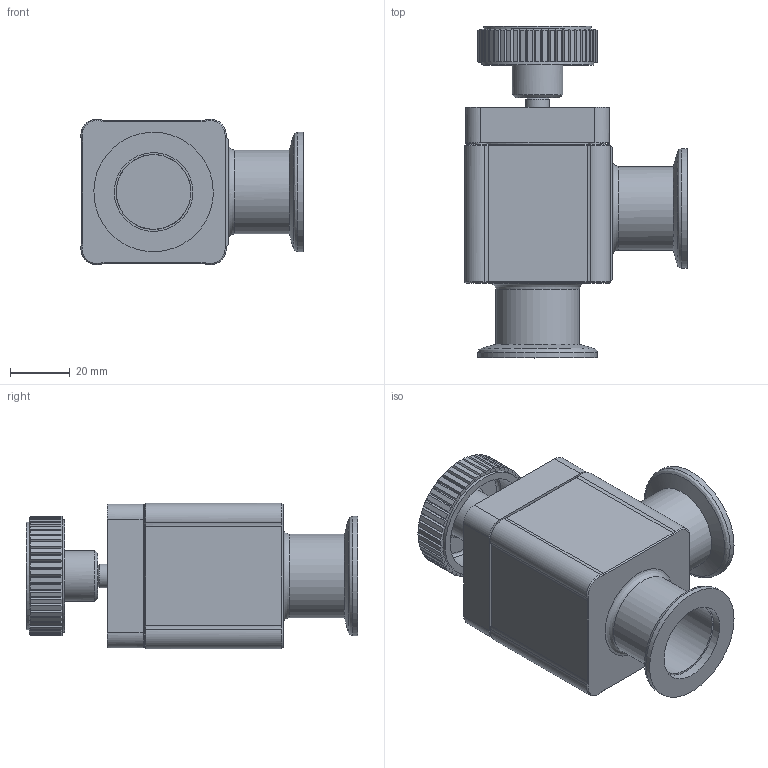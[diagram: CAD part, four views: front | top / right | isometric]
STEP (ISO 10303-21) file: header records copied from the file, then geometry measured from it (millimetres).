
FILE_DESCRIPTION((''),'2;1');
FILE_NAME('C:\TEMP\IDEAS\252872.stp','2006-09-19T15:41:40',('User'),( 'SDRC'),'I-DEAS Master Series 9','UNIX','Yes');
FILE_SCHEMA(('CONFIG_CONTROL_DESIGN'));
Length unit declared in the file: millimetre
Assembly tree (10 placements, depth 0):
Bounding box: 74.3 x 110.9 x 48.6 mm (x, y, z)
Volume: 104560.9 mm3; surface area: 52266.1 mm2
Topology: 18 solids, 18 shells, 512 faces, 1251 edges, 823 vertices
Faces by surface type: bspline 512
Entity records: 16342 total; most frequent: CARTESIAN_POINT 8689, ORIENTED_EDGE 2244, EDGE_CURVE 1122, VERTEX_POINT 721, EDGE_LOOP 509, FACE_OUTER_BOUND 455, ADVANCED_FACE 455, B_SPLINE_CURVE_WITH_KNOTS 348
